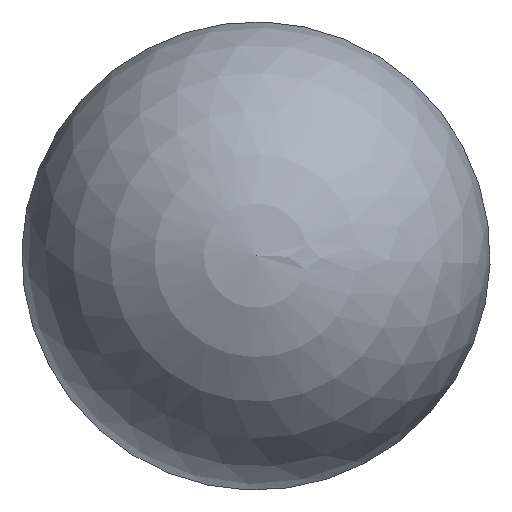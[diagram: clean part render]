
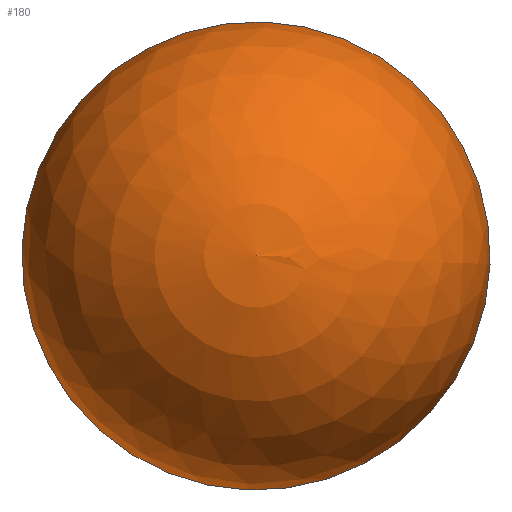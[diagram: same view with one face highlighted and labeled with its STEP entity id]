
A CAD part, top view. The second image highlights one B-rep face of the part: STEP entity #180.
In plain terms, the highlighted spherical face has radius 12.5 mm.
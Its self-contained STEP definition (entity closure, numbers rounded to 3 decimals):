
#18 = DIRECTION ( 'NONE',  ( 0., 0., 1. ) ) ;
#30 = DIRECTION ( 'NONE',  ( 0.999, -0.035, 0. ) ) ;
#61 = EDGE_LOOP ( 'NONE', ( #297, #198 ) ) ;
#71 = SPHERICAL_SURFACE ( 'NONE', #150, 12.5 ) ;
#104 = AXIS2_PLACEMENT_3D ( 'NONE', #212, #18, #390 ) ;
#113 = CIRCLE ( 'NONE', #104, 12.5 ) ;
#125 = DIRECTION ( 'NONE',  ( 0., 0., 1. ) ) ;
#150 = AXIS2_PLACEMENT_3D ( 'NONE', #165, #125, #30 ) ;
#157 = CARTESIAN_POINT ( 'NONE',  ( 0., 0., 136.5 ) ) ;
#165 = CARTESIAN_POINT ( 'NONE',  ( 0., 0., 136.5 ) ) ;
#180 = ADVANCED_FACE ( 'NONE', ( #364 ), #71, .T. ) ;
#182 = CARTESIAN_POINT ( 'NONE',  ( -0.436, -12.492, 136.5 ) ) ;
#198 = ORIENTED_EDGE ( 'NONE', *, *, #480, .T. ) ;
#202 = CIRCLE ( 'NONE', #228, 12.5 ) ;
#212 = CARTESIAN_POINT ( 'NONE',  ( 0., 0., 136.5 ) ) ;
#228 = AXIS2_PLACEMENT_3D ( 'NONE', #157, #449, #250 ) ;
#250 = DIRECTION ( 'NONE',  ( -1., 0., 0. ) ) ;
#253 = VERTEX_POINT ( 'NONE', #182 ) ;
#297 = ORIENTED_EDGE ( 'NONE', *, *, #361, .F. ) ;
#349 = CARTESIAN_POINT ( 'NONE',  ( 0.436, 12.492, 136.5 ) ) ;
#361 = EDGE_CURVE ( 'NONE', #394, #253, #202, .T. ) ;
#364 = FACE_OUTER_BOUND ( 'NONE', #61, .T. ) ;
#390 = DIRECTION ( 'NONE',  ( 1., 0., 0. ) ) ;
#394 = VERTEX_POINT ( 'NONE', #349 ) ;
#449 = DIRECTION ( 'NONE',  ( 0., 0., -1. ) ) ;
#480 = EDGE_CURVE ( 'NONE', #394, #253, #113, .T. ) ;
